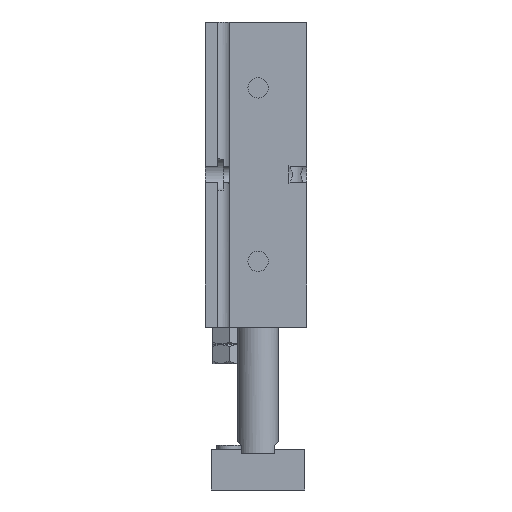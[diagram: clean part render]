
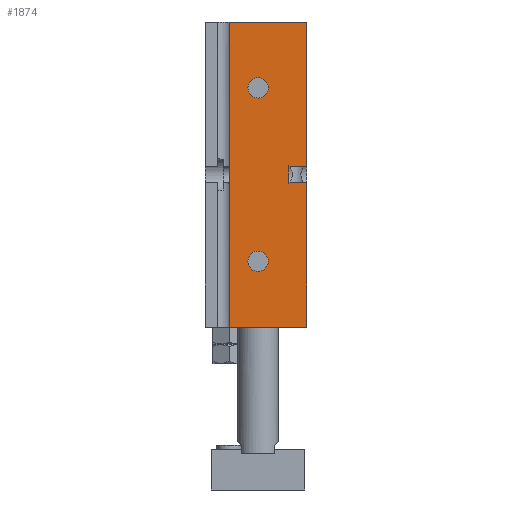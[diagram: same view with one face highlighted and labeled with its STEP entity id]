
A CAD part, front view. The second image highlights one B-rep face of the part: STEP entity #1874.
In plain terms, the highlighted planar face has unit normal (0, -1, 0).
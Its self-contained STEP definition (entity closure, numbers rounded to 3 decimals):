
#1431=CARTESIAN_POINT('',(-7.,-31.,115.0));
#1432=VERTEX_POINT('',#1431);
#1440=CARTESIAN_POINT('',(-7.,-31.,40.0));
#1441=VERTEX_POINT('',#1440);
#1448=CARTESIAN_POINT('',(-7.,-31.,115.0));
#1449=DIRECTION('',(0.0,0.0,-1.0));
#1450=VECTOR('',#1449,75.0);
#1451=LINE('',#1448,#1450);
#1452=EDGE_CURVE('',#1432,#1441,#1451,.T.);
#1603=CARTESIAN_POINT('',(12.,-31.,115.0));
#1604=VERTEX_POINT('',#1603);
#1605=CARTESIAN_POINT('',(12.,-31.,115.0));
#1606=DIRECTION('',(-1.0,0.0,0.0));
#1607=VECTOR('',#1606,19.);
#1608=LINE('',#1605,#1607);
#1609=EDGE_CURVE('',#1604,#1432,#1608,.T.);
#1797=CARTESIAN_POINT('',(12.,-31.,40.0));
#1798=DIRECTION('',(0.0,-1.0,0.0));
#1799=DIRECTION('',(0.0,0.0,-1.0));
#1800=AXIS2_PLACEMENT_3D('',#1797,#1798,#1799);
#1801=PLANE('',#1800);
#1802=ORIENTED_EDGE('',*,*,#1452,.T.);
#1803=CARTESIAN_POINT('',(12.,-31.,40.0));
#1804=VERTEX_POINT('',#1803);
#1805=CARTESIAN_POINT('',(12.,-31.,40.0));
#1806=DIRECTION('',(-1.0,0.0,0.0));
#1807=VECTOR('',#1806,19.);
#1808=LINE('',#1805,#1807);
#1809=EDGE_CURVE('',#1804,#1441,#1808,.T.);
#1810=ORIENTED_EDGE('',*,*,#1809,.F.);
#1811=CARTESIAN_POINT('',(12.,-31.,75.564));
#1812=VERTEX_POINT('',#1811);
#1813=CARTESIAN_POINT('',(12.,-31.,40.0));
#1814=DIRECTION('',(0.0,0.0,1.0));
#1815=VECTOR('',#1814,35.564);
#1816=LINE('',#1813,#1815);
#1817=EDGE_CURVE('',#1804,#1812,#1816,.T.);
#1818=ORIENTED_EDGE('',*,*,#1817,.T.);
#1819=CARTESIAN_POINT('',(7.6,-31.,75.564));
#1820=VERTEX_POINT('',#1819);
#1821=CARTESIAN_POINT('',(12.,-31.,75.564));
#1822=DIRECTION('',(-1.0,0.0,0.0));
#1823=VECTOR('',#1822,4.4);
#1824=LINE('',#1821,#1823);
#1825=EDGE_CURVE('',#1812,#1820,#1824,.T.);
#1826=ORIENTED_EDGE('',*,*,#1825,.T.);
#1827=CARTESIAN_POINT('',(7.6,-31.,79.436));
#1828=VERTEX_POINT('',#1827);
#1829=CARTESIAN_POINT('',(7.6,-31.,75.564));
#1830=DIRECTION('',(0.0,0.0,1.0));
#1831=VECTOR('',#1830,3.873);
#1832=LINE('',#1829,#1831);
#1833=EDGE_CURVE('',#1820,#1828,#1832,.T.);
#1834=ORIENTED_EDGE('',*,*,#1833,.T.);
#1835=CARTESIAN_POINT('',(12.,-31.,79.436));
#1836=VERTEX_POINT('',#1835);
#1837=CARTESIAN_POINT('',(7.6,-31.,79.436));
#1838=DIRECTION('',(1.0,0.0,0.0));
#1839=VECTOR('',#1838,4.4);
#1840=LINE('',#1837,#1839);
#1841=EDGE_CURVE('',#1828,#1836,#1840,.T.);
#1842=ORIENTED_EDGE('',*,*,#1841,.T.);
#1843=CARTESIAN_POINT('',(12.,-31.,79.436));
#1844=DIRECTION('',(0.0,0.0,1.0));
#1845=VECTOR('',#1844,35.564);
#1846=LINE('',#1843,#1845);
#1847=EDGE_CURVE('',#1836,#1604,#1846,.T.);
#1848=ORIENTED_EDGE('',*,*,#1847,.T.);
#1849=ORIENTED_EDGE('',*,*,#1609,.T.);
#1850=EDGE_LOOP('',(#1802,#1810,#1818,#1826,#1834,#1842,#1848,#1849));
#1851=FACE_OUTER_BOUND('',#1850,.T.);
#1852=CARTESIAN_POINT('',(2.5,-31.,98.8));
#1853=VERTEX_POINT('',#1852);
#1854=CARTESIAN_POINT('',(0.0,-31.,98.8));
#1855=DIRECTION('',(0.0,1.0,0.0));
#1856=DIRECTION('',(-1.0,0.0,0.0));
#1857=AXIS2_PLACEMENT_3D('',#1854,#1855,#1856);
#1858=CIRCLE('',#1857,2.5);
#1859=EDGE_CURVE('',#1853,#1853,#1858,.T.);
#1860=ORIENTED_EDGE('',*,*,#1859,.T.);
#1861=EDGE_LOOP('',(#1860));
#1862=FACE_BOUND('',#1861,.T.);
#1863=CARTESIAN_POINT('',(2.5,-31.,56.2));
#1864=VERTEX_POINT('',#1863);
#1865=CARTESIAN_POINT('',(0.0,-31.,56.2));
#1866=DIRECTION('',(0.0,1.0,0.0));
#1867=DIRECTION('',(-1.0,0.0,0.0));
#1868=AXIS2_PLACEMENT_3D('',#1865,#1866,#1867);
#1869=CIRCLE('',#1868,2.5);
#1870=EDGE_CURVE('',#1864,#1864,#1869,.T.);
#1871=ORIENTED_EDGE('',*,*,#1870,.T.);
#1872=EDGE_LOOP('',(#1871));
#1873=FACE_BOUND('',#1872,.T.);
#1874=ADVANCED_FACE('',(#1851,#1862,#1873),#1801,.T.);
